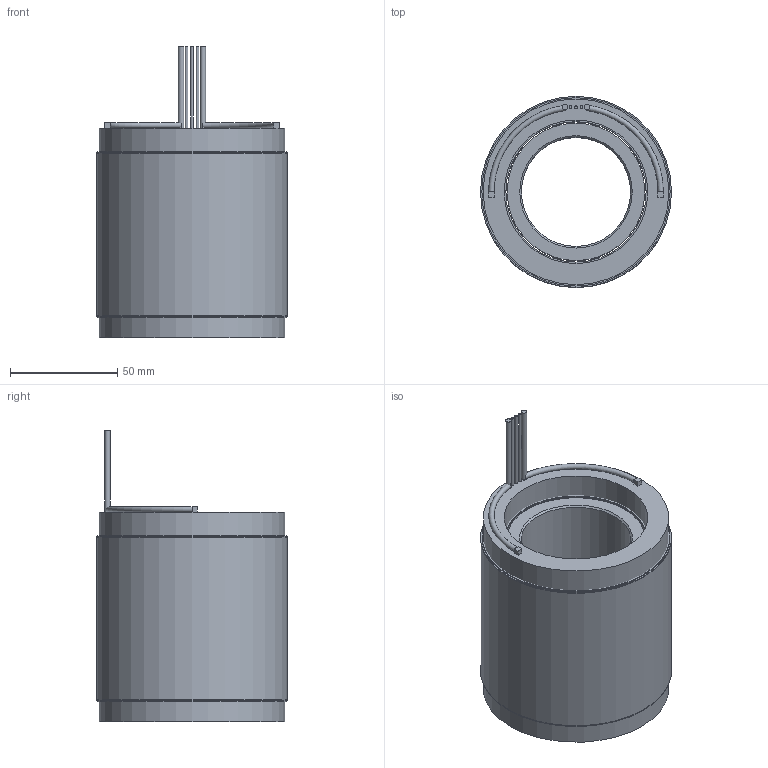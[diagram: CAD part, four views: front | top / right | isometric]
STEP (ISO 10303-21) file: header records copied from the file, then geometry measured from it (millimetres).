
FILE_DESCRIPTION (( 'STEP AP214' ), '1' );
FILE_NAME ('6100378-05.STEP', '2020-06-23T15:57:34', ( '' ), ( '' ), 'SwSTEP 2.0', 'SolidWorks 2016', '' );
FILE_SCHEMA (( 'AUTOMOTIVE_DESIGN' ));
Length unit declared in the file: inch
Products named in the file (10): 4400100-00; 4250372-XX_4250372-05; 4500552-XX_4500552-05; 4450187-XX_4450187-05; 6100378-05; 4600562-00; 4150176-XX_4150176-05; comp4500552-XX(COIL)_comp4500552-05(COIL)
Assembly tree (10 placements, depth 4):
  6100378-05
    4500552-XX_4500552-05
      4450187-XX_4450187-05
        4450187-XX_4450187-05
        4400100-00
        4400100-00
        4600562-00  x2
      comp4500552-XX(COIL)_comp4500552-05(COIL)
    4250372-XX_4250372-05
      4150176-XX_4150176-05
Bounding box: 88.9 x 88.9 x 135.64 mm (x, y, z)
Volume: 541966 mm3; surface area: 148726.3 mm2
Topology: 11 solids, 11 shells, 58 faces, 91 edges, 60 vertices
Faces by surface type: plane 35, cylinder 19, torus 2, cone 2
Full cylindrical faces by diameter (mm): 1.27 x3, 2.54 x2, 50.8 x1, 64.008 x1, 65.278 x5, 66.801 x1, 86.36 x1, 87.63 x2, 88.9 x3
Entity records: 1612 total; most frequent: DIRECTION 244, CARTESIAN_POINT 190, ORIENTED_EDGE 128, AXIS2_PLACEMENT_3D 110, EDGE_LOOP 92, FACE_OUTER_BOUND 73, EDGE_CURVE 64, VERTEX_POINT 56
